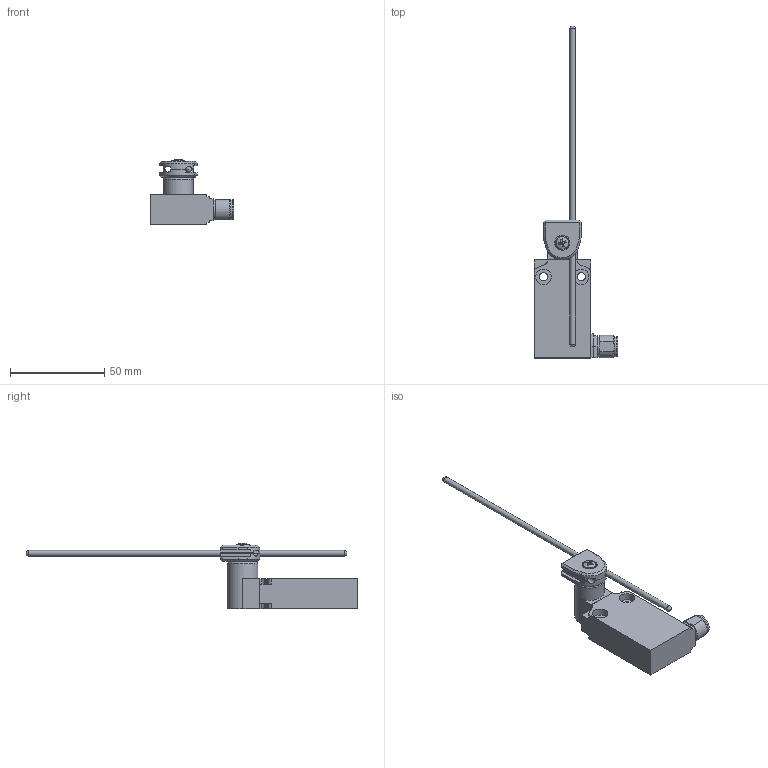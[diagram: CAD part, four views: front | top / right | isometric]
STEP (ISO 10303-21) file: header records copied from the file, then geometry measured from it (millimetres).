
FILE_DESCRIPTION(/* description */ (''),/* implementation_level */ '2;1');
FILE_NAME(/* name */ 'C:\Users\servizio.tecnico\Desktop\BERNSTEIN\3D\STP_EM1_G7140M.stp',/* time_stamp */ '2020-06-26T11:15:28+02:00',/* author */ ('servizio.tecnico'),/* organization */ (''),/* preprocessor_version */ 'ST-DEVELOPER v17',/* originating_system */ 'Autodesk Inventor 2019',/* authorisation */ '');
FILE_SCHEMA (('AUTOMOTIVE_DESIGN { 1 0 10303 214 3 1 1 }'));
Length unit declared in the file: millimetre
Products named in the file (9): STP_EM1_G41M; EM1G41-M; Product; G7120; vi2617pe; fu2065pe_3; asta inox; fu2065pe_3 INOX; fu 4120
Assembly tree (8 placements, depth 3):
  STP_EM1_G41M
    EM1G41-M
      Product
    G7120
      vi2617pe
      fu2065pe_3
      asta inox
      fu2065pe_3 INOX
      fu 4120
Bounding box: 44.5 x 175.86 x 34.7 mm (x, y, z)
Volume: 33575.1 mm3; surface area: 13332.2 mm2
Topology: 6 solids, 6 shells, 227 faces, 585 edges, 383 vertices
Faces by surface type: plane 141, cylinder 69, cone 8, bspline 3, torus 3, sphere 3
Full cylindrical faces by diameter (mm): 3 x1, 3.5 x22, 4.4 x2, 5 x3, 7 x1, 8 x2, 8.2 x4, 10.3 x1, 10.6 x2, 15.8 x1
Entity records: 10276 total; most frequent: CARTESIAN_POINT 4313, ORIENTED_EDGE 1166, DIRECTION 1161, EDGE_CURVE 583, AXIS2_PLACEMENT_3D 395, VERTEX_POINT 383, LINE 371, VECTOR 371
